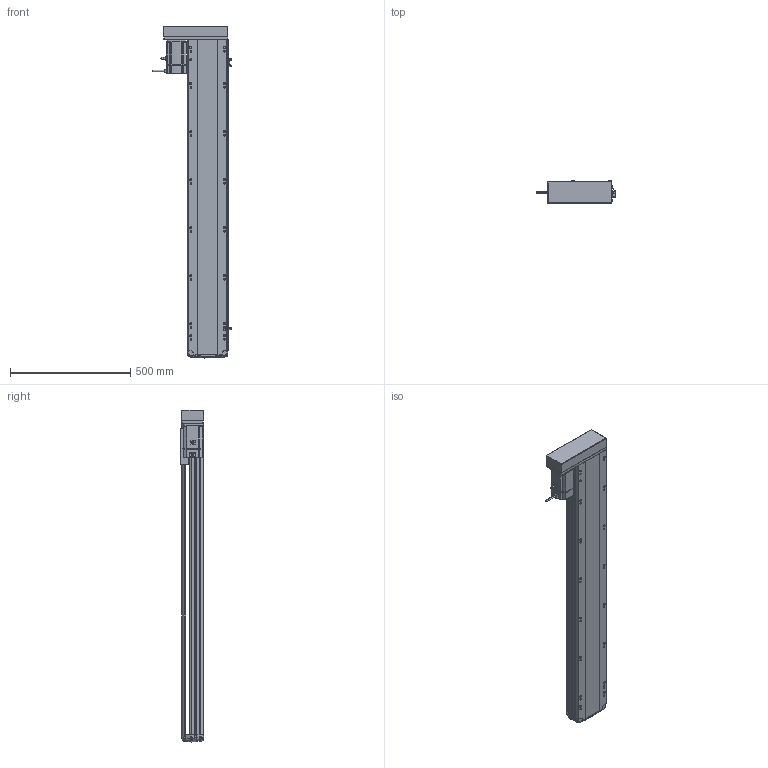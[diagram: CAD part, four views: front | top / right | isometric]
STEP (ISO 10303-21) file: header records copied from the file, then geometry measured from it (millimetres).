
FILE_DESCRIPTION (( 'STEP AP214' ), '1' );
FILE_NAME ('RTH17-XX-1100-R-M75-C4.STEP', '2025-10-24T10:19:24', ( '' ), ( '' ), 'SwSTEP 2.0', 'SolidWorks 2018', '' );
FILE_SCHEMA (( 'AUTOMOTIVE_DESIGN' ));
Length unit declared in the file: millimetre
Products named in the file (10): N_RTH17-L-008-P75电机安装板左转折^RTH17-XX-XX-R-M75-C4（方程式）; RTH17-XX-1100-R-M75-C4; N_RTH17-GY-001P^RTH17-XX-XX-R-M75-C4（方程式）; N_RTH-L-012 感应片(外置)^RTH17-XX-XX-R-M75-C4（方程式）; N_RTH17-M-007上盖^RTH17-XX-XX-R-M75-C4（方程式）; N_RTH17-E-004丝杆螺母连接座^RTH17-XX-XX-R-M75-C4（方程式）; N_M75^RTH17-XX-XX-R-M75-C4（方程式）; N_RTH17-L-018盖子^RTH17-XX-XX-R-M75-C4（方程式）; N_RTH17-M-011底座^RTH17-XX-XX-R-M75-C4（方程式）; N_OMRON EE-SX672 換覜ん^RTH17-XX-XX-R-M75-C4ㄗ源最宒ㄘ
Assembly tree (11 placements, depth 2):
  RTH17-XX-1100-R-M75-C4
    N_RTH17-M-011底座^RTH17-XX-XX-R-M75-C4（方程式）
    N_RTH17-M-007上盖^RTH17-XX-XX-R-M75-C4（方程式）
    N_M75^RTH17-XX-XX-R-M75-C4（方程式）
    N_OMRON EE-SX672 換覜ん^RTH17-XX-XX-R-M75-C4ㄗ源最宒ㄘ  x3
    N_RTH-L-012 感应片(外置)^RTH17-XX-XX-R-M75-C4（方程式）
    N_RTH17-L-008-P75电机安装板左转折^RTH17-XX-XX-R-M75-C4（方程式）
    N_RTH17-L-018盖子^RTH17-XX-XX-R-M75-C4（方程式）
    N_RTH17-E-004丝杆螺母连接座^RTH17-XX-XX-R-M75-C4（方程式）
    N_RTH17-GY-001P^RTH17-XX-XX-R-M75-C4（方程式）
Bounding box: 326.2 x 97 x 1382.99 mm (x, y, z)
Volume: 11946695.5 mm3; surface area: 1497952.1 mm2
Topology: 13 solids, 15 shells, 1789 faces, 4943 edges, 3202 vertices
Faces by surface type: plane 837, cylinder 538, bspline 377, cone 28, torus 9
Entity records: 52717 total; most frequent: CARTESIAN_POINT 21003, ORIENTED_EDGE 6910, DIRECTION 5743, EDGE_CURVE 3459, VERTEX_POINT 2238, AXIS2_PLACEMENT_3D 1945, VECTOR 1853, LINE 1853
